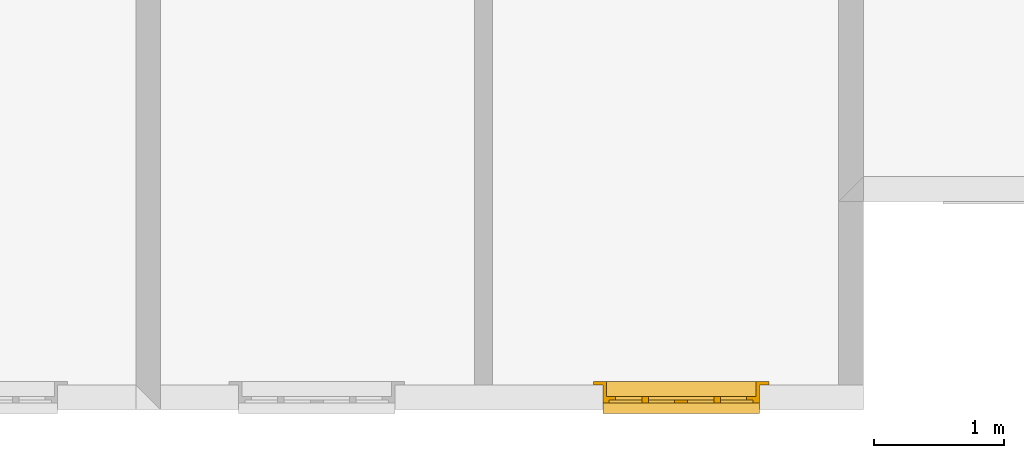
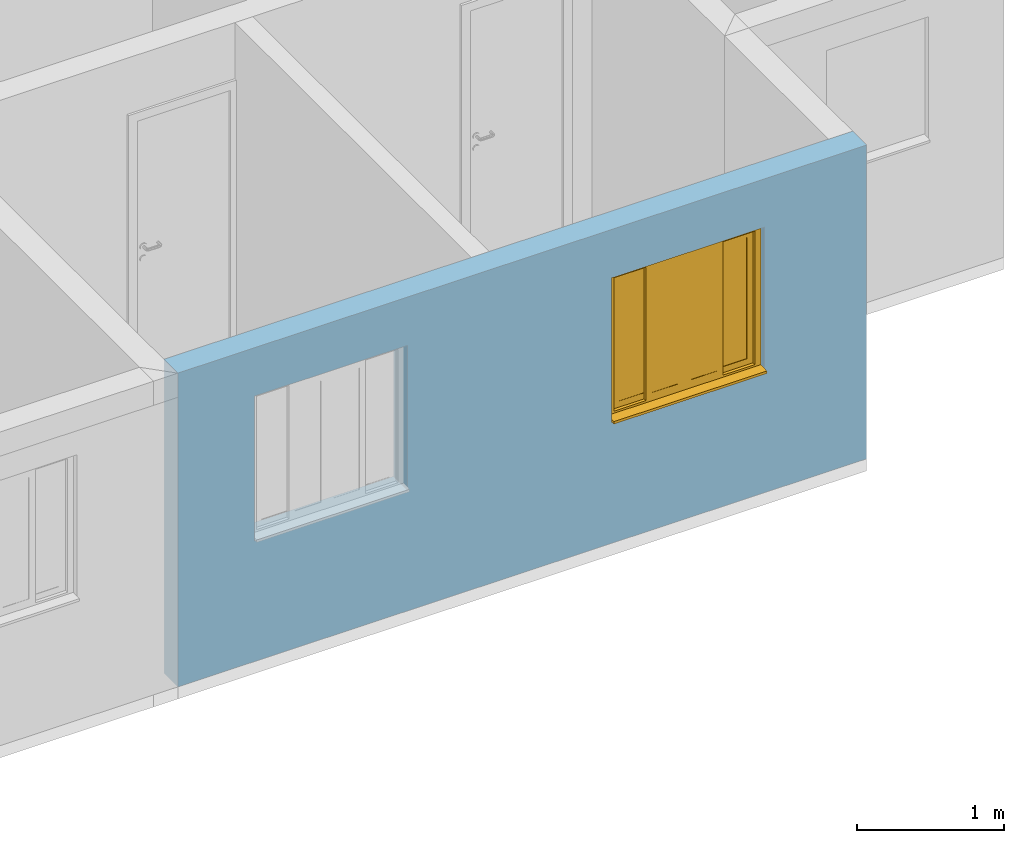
# One storey, part 16 of 47: 1 window, 2 openings, plus 1 element that does not belong to this part.
"""IFC2X3 building model written with IfcOpenShell, lengths in millimetres."""

from ifc_helpers import new_model, entity, si_unit, converted_unit, derived_unit, money_unit, direction, frame, origin_with_axes, origin_2d_with_axis, place, context, subcontext, project, spatial, polyline, rectangle, outline, extrude, open_shell, faceted_brep, surface_model, source, transform, mapped, material, layer, layer_set, layer_usage, type_object, element, fill, save


model = new_model("IFC2X3")

# Units and contexts
model_context = context("Model", 3, precision=0.01, world=origin_with_axes(), true_north=direction((0.0, 1.0)))
body_context = subcontext(model_context, "Body", "Model", "MODEL_VIEW")
ifc_project = project(units=[si_unit("LENGTHUNIT", "METRE", prefix="MILLI"), si_unit("AREAUNIT", "SQUARE_METRE"), si_unit("VOLUMEUNIT", "CUBIC_METRE"), converted_unit("PLANEANGLEUNIT", "DEGREE", entity("IfcPlaneAngleMeasure", 0.0174532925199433), si_unit("PLANEANGLEUNIT", "RADIAN"), dimensions=[0, 0, 0, 0, 0, 0, 0]), money_unit("USD"), converted_unit("TIMEUNIT", "Year", entity("IfcTimeMeasure", 31557600.0), si_unit("TIMEUNIT", "SECOND"), dimensions=[0, 0, 1, 0, 0, 0, 0]), si_unit("MASSUNIT", "GRAM", prefix="KILO"), si_unit("THERMODYNAMICTEMPERATUREUNIT", "DEGREE_CELSIUS"), si_unit("LUMINOUSINTENSITYUNIT", "LUMEN"), si_unit("ENERGYUNIT", "JOULE", prefix="MEGA"), derived_unit("THERMALCONDUCTANCEUNIT", [(si_unit("POWERUNIT", "WATT"), 1), (si_unit("LENGTHUNIT", "METRE"), -1), (si_unit("THERMODYNAMICTEMPERATUREUNIT", "KELVIN"), -1)]), derived_unit("SPECIFICHEATCAPACITYUNIT", [(si_unit("ENERGYUNIT", "JOULE"), 1), (si_unit("MASSUNIT", "GRAM", prefix="KILO"), -1), (si_unit("THERMODYNAMICTEMPERATUREUNIT", "KELVIN"), -1)]), derived_unit("MASSDENSITYUNIT", [(si_unit("MASSUNIT", "GRAM", prefix="KILO"), 1), (si_unit("VOLUMEUNIT", "CUBIC_METRE"), -1)])], contexts=[model_context])

# Site, building, storey
site_placement = place(None, origin_with_axes())
site = spatial("IfcSite", under=ifc_project, at=site_placement, Name="Local", CompositionType="ELEMENT")
building_placement = place(site_placement, origin_with_axes())
building = spatial("IfcBuilding", under=site, at=building_placement, Name="Construção", CompositionType="ELEMENT")
storey_placement = place(building_placement, origin_with_axes())
storey = spatial("IfcBuildingStorey", under=building, at=storey_placement, Name="Pavimento Tipo", CompositionType="ELEMENT", Elevation=0.0)

# Wall, openings, window
ifc_material = material(Name="Concreto - Estrutural")
ifc_layer = layer(ifc_material, 190.0, ventilated="UNKNOWN")
ifc_layer_set = layer_set([ifc_layer], Name="Concreto - Estrutural 190")
ifc_layer_usage = layer_usage(ifc_layer_set, "AXIS2", "POSITIVE", -190.0)
wall_type = type_object("IfcWallType", Name="Concreto - Estrutural 190", PredefinedType="NOTDEFINED")
wall_placement = place(storey_placement, frame((6442.566997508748, -1603.018582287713, 0.0), z_axis=(0.0, 0.0, 1.0), x_axis=(-1.0, 0.0, 0.0)))
wall = element("IfcWallStandardCase", 1, at=wall_placement, inside=storey, type_object=wall_type, material=ifc_layer_usage, Name="Apartamento 4 - Parede-004", context=body_context, shape_type="SweptSolid", body=[
    extrude(outline(polyline([(0.0, -189.9999999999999), (5399.999999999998, -189.9999999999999), (5399.999999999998, 0.0), (0.0, 0.0), (0.0, -189.9999999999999)])), origin_with_axes(), (0.0, 0.0, 1.0), 2600.0),
])
opening_1_placement = place(wall_placement, frame((4199.999999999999, 0.0, 1000.0), z_axis=(0.0, 0.0, 1.0), x_axis=(1.0, 0.0, 0.0)))
element("IfcOpeningElement", 2, at=opening_1_placement, cuts=wall, Name="Apartamento 4 - J06", context=body_context, shape_type="SweptSolid", body=[
    extrude(rectangle(XDim=1200.0, YDim=1200.0, at=origin_2d_with_axis()), frame((0.0, -50.00000000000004, 600.0000000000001), z_axis=(0.0, -1.0, 0.0), x_axis=(-1.0, 0.0, 0.0)), (0.0, 0.0, 1.0), 330.0),
    extrude(rectangle(XDim=1200.0, YDim=1200.0, at=origin_2d_with_axis()), frame((0.0, -50.00000000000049, 600.0000000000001), z_axis=(0.0, 1.0, 0.0), x_axis=(-1.0, 0.0, 0.0)), (0.0, 0.0, 1.0), 240.0),
    extrude(rectangle(XDim=1349.999999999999, YDim=1350.0, at=origin_2d_with_axis()), frame((0.0, -190.0000000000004, 600.0000000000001), z_axis=(0.0, -1.0, 0.0), x_axis=(-1.0, 0.0, 0.0)), (0.0, 0.0, 1.0), 240.0),
])
opening_2_placement = place(wall_placement, frame((1400.0, 0.0, 1000.0), z_axis=(0.0, 0.0, 1.0), x_axis=(1.0, 0.0, 0.0)))
opening_2 = element("IfcOpeningElement", 3, at=opening_2_placement, cuts=wall, Name="Apartamento 4 - J05", context=body_context, shape_type="SweptSolid", body=[
    extrude(rectangle(XDim=1199.999999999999, YDim=1200.0, at=origin_2d_with_axis()), frame((0.0, -50.00000000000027, 600.0000000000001), z_axis=(0.0, 1.0, 0.0), x_axis=(1.0, 0.0, 0.0)), (0.0, 0.0, -1.0), 330.0),
    extrude(rectangle(XDim=1199.999999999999, YDim=1200.0, at=origin_2d_with_axis()), frame((0.0, -50.00000000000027, 600.0000000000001), z_axis=(0.0, -1.0, 0.0), x_axis=(1.0, 0.0, 0.0)), (0.0, 0.0, -1.0), 240.0),
    extrude(rectangle(XDim=1350.0, YDim=1350.0, at=origin_2d_with_axis()), frame((0.0, -190.0000000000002, 600.0000000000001), z_axis=(0.0, 1.0, 0.0), x_axis=(1.0, 0.0, 0.0)), (0.0, 0.0, -1.0), 240.0),
])
window_style = type_object("IfcWindowStyle", Name="Janela de Correr 4-Folhas 27", ConstructionType="NOTDEFINED", OperationType="USERDEFINED", ParameterTakesPrecedence=False, Sizeable=False)
shared_shape = source(origin_with_axes(), body_context, "Body", "SurfaceModel", [
    faceted_brep([(-600.0, 0.0, 5.0), (-600.0, 0.0, 30.0), (-600.0, 50.0, 27.37961103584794), (-600.0, 50.0, 5.000000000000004), (600.0, 0.0, 5.0), (600.0, 0.0, 30.0), (600.0, 50.0, 27.37961103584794), (600.0, 80.0, 25.8073776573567), (-600.0, 80.0, 25.8073776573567), (-600.0, 80.0, 5.000000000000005), (600.0, 80.0, 5.000000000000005), (600.0, 50.0, 5.000000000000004)], [[[0, 1, 2, 3]], [[4, 5, 1, 0]], [[1, 5, 6, 7, 8, 2]], [[3, 2, 8, 9]], [[0, 3, 9, 10, 11, 4]], [[11, 6, 5, 4]], [[10, 7, 6, 11]], [[9, 8, 7, 10]]]),
    faceted_brep([(-600.0, 0.0, 0.0), (-600.0, 0.0, 5.0), (-600.0, 50.0, 5.0), (-600.0, 50.0, 0.0), (600.0, 0.0, 0.0), (600.0, 0.0, 5.0), (600.0, 50.0, 5.0), (600.0, 50.0, 0.0)], [[[0, 1, 2, 3]], [[4, 5, 1, 0]], [[1, 5, 6, 2]], [[3, 2, 6, 7]], [[0, 3, 7, 4]], [[7, 6, 5, 4]]]),
    faceted_brep([(-600.0, -50.0, 0.0), (600.0, -50.0, 0.0), (600.0, -140.0, 0.0), (-600.0, -140.0, 0.0), (-600.0, -50.00000000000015, 1200.0), (600.0, -50.00000000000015, 1200.0), (-575.0, -50.0, 24.99999999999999), (575.0, -50.0, 24.99999999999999), (575.0, -50.00000000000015, 1175.0), (-575.0, -50.00000000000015, 1175.0), (600.0, -140.0000000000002, 1200.0), (-600.0, -140.0000000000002, 1200.0), (-575.0, -140.0, 24.99999999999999), (-575.0, -140.0000000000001, 1175.0), (575.0, -140.0000000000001, 1175.0), (575.0, -140.0, 24.99999999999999)], [[[0, 1, 2, 3]], [[0, 4, 5, 1], [6, 7, 8, 9]], [[1, 5, 10, 2]], [[3, 2, 10, 11], [12, 13, 14, 15]], [[4, 0, 3, 11]], [[5, 4, 11, 10]], [[7, 6, 12, 15]], [[8, 7, 15, 14]], [[9, 8, 14, 13]], [[6, 9, 13, 12]]]),
    faceted_brep([(-674.9999999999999, -165.0, -75.00000000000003), (-674.9999999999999, -140.0, -75.00000000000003), (-575.0, -140.0, 24.99999999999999), (-575.0, -165.0, 24.99999999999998), (-674.9999999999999, -165.0000000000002, 1275.0), (-674.9999999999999, -140.0000000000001, 1275.0), (-575.0, -140.0000000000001, 1175.0), (-575.0, -165.0000000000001, 1175.0)], [[[0, 1, 2, 3]], [[4, 5, 1, 0]], [[1, 5, 6, 2]], [[3, 2, 6, 7]], [[0, 3, 7, 4]], [[7, 6, 5, 4]]]),
    faceted_brep([(674.9999999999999, -165.0000000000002, 1275.0), (674.9999999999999, -140.0000000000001, 1275.0), (575.0, -140.0000000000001, 1175.0), (575.0, -165.0000000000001, 1175.0), (674.9999999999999, -165.0, -75.00000000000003), (674.9999999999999, -140.0, -75.00000000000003), (575.0, -140.0, 24.99999999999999), (575.0, -165.0, 24.99999999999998)], [[[0, 1, 2, 3]], [[4, 5, 1, 0]], [[1, 5, 6, 2]], [[3, 2, 6, 7]], [[0, 3, 7, 4]], [[7, 6, 5, 4]]]),
    faceted_brep([(674.9999999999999, -165.0, -75.00000000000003), (674.9999999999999, -140.0, -75.00000000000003), (575.0, -140.0, 24.99999999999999), (575.0, -165.0, 24.99999999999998), (-674.9999999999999, -165.0, -75.00000000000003), (-674.9999999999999, -140.0, -75.00000000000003), (-575.0, -140.0, 24.99999999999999), (-575.0, -165.0, 24.99999999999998)], [[[0, 1, 2, 3]], [[4, 5, 1, 0]], [[1, 5, 6, 2]], [[3, 2, 6, 7]], [[0, 3, 7, 4]], [[7, 6, 5, 4]]]),
    faceted_brep([(-674.9999999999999, -165.0000000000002, 1275.0), (-674.9999999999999, -140.0000000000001, 1275.0), (-575.0, -140.0000000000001, 1175.0), (-575.0, -165.0000000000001, 1175.0), (674.9999999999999, -165.0000000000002, 1275.0), (674.9999999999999, -140.0000000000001, 1275.0), (575.0, -140.0000000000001, 1175.0), (575.0, -165.0000000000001, 1175.0)], [[[0, 1, 2, 3]], [[4, 5, 1, 0]], [[1, 5, 6, 2]], [[3, 2, 6, 7]], [[0, 3, 7, 4]], [[7, 6, 5, 4]]]),
    faceted_brep([(-552.9999999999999, -50.00000000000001, 47.0), (-552.9999999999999, 0.0, 47.00000000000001), (-552.9999999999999, 0.0, 1153.0), (-552.9999999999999, -50.00000000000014, 1153.0), (-600.0, -50.00000000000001, 47.0), (-600.0, 0.0, 47.00000000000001), (-600.0, 0.0, 1153.0), (-600.0, -50.00000000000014, 1153.0)], [[[0, 1, 2, 3]], [[4, 5, 1, 0]], [[1, 5, 6, 2]], [[3, 2, 6, 7]], [[0, 3, 7, 4]], [[7, 6, 5, 4]]]),
    faceted_brep([(600.0, -50.00000000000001, 47.0), (600.0, 0.0, 47.00000000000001), (600.0, 0.0, 1153.0), (600.0, -50.00000000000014, 1153.0), (552.9999999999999, -50.00000000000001, 47.0), (552.9999999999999, 0.0, 47.00000000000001), (552.9999999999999, 0.0, 1153.0), (552.9999999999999, -50.00000000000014, 1153.0)], [[[0, 1, 2, 3]], [[4, 5, 1, 0]], [[1, 5, 6, 2]], [[3, 2, 6, 7]], [[0, 3, 7, 4]], [[7, 6, 5, 4]]]),
    faceted_brep([(600.0, -50.00000000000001, 47.0), (600.0, 0.0, 47.00000000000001), (552.9999999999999, 0.0, 47.00000000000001), (552.9999999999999, -50.00000000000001, 47.0), (600.0, -50.0, 0.0), (600.0, 0.0, 0.0), (-600.0, 0.0, 0.0), (-600.0, 0.0, 47.00000000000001), (-552.9999999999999, 0.0, 47.00000000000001), (-552.9999999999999, -50.00000000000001, 47.0), (-600.0, -50.00000000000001, 47.0), (-600.0, -50.0, 0.0)], [[[0, 1, 2, 3]], [[4, 5, 1, 0]], [[1, 5, 6, 7, 8, 2]], [[3, 2, 8, 9]], [[0, 3, 9, 10, 11, 4]], [[11, 6, 5, 4]], [[10, 7, 6, 11]], [[9, 8, 7, 10]]]),
    faceted_brep([(600.0, -50.00000000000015, 1200.0), (600.0, 0.0, 1200.0), (-600.0, 0.0, 1200.0), (-600.0, -50.00000000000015, 1200.0), (600.0, -50.00000000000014, 1153.0), (600.0, 0.0, 1153.0), (552.9999999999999, 0.0, 1153.0), (276.5, 0.0, 1153.0), (0.0, 0.0, 1153.0), (-276.4999999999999, 0.0, 1153.0), (-552.9999999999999, 0.0, 1153.0), (-600.0, 0.0, 1153.0), (-600.0, -50.00000000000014, 1153.0), (-552.9999999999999, -50.00000000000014, 1153.0), (-276.4999999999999, -50.00000000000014, 1153.0), (0.0, -50.00000000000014, 1153.0), (276.5, -50.00000000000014, 1153.0), (552.9999999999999, -50.00000000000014, 1153.0)], [[[0, 1, 2, 3]], [[4, 5, 1, 0]], [[1, 5, 6, 7, 8, 9, 10, 11, 2]], [[3, 2, 11, 12]], [[0, 3, 12, 13, 14, 15, 16, 17, 4]], [[17, 6, 5, 4]], [[16, 7, 6, 17]], [[15, 8, 7, 16]], [[14, 9, 8, 15]], [[13, 10, 9, 14]], [[12, 11, 10, 13]]]),
    faceted_brep([(-502.9999999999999, -50.00000000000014, 1103.0), (-502.9999999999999, -25.00000000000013, 1103.0), (-552.9999999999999, -25.00000000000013, 1103.0), (-552.9999999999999, -50.00000000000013, 1103.0), (-502.9999999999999, -50.00000000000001, 97.0), (-502.9999999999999, -25.00000000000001, 97.0), (-552.9999999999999, -25.0, 97.0), (-552.9999999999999, -50.00000000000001, 97.0)], [[[0, 1, 2, 3]], [[4, 5, 1, 0]], [[1, 5, 6, 2]], [[3, 2, 6, 7]], [[0, 3, 7, 4]], [[7, 6, 5, 4]]]),
    faceted_brep([(-301.4999999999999, -50.00000000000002, 97.0), (-301.4999999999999, -25.00000000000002, 97.0), (-251.4999999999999, -25.00000000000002, 97.0), (-251.4999999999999, -50.00000000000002, 97.0), (-301.4999999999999, -50.00000000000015, 1103.0), (-301.4999999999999, -25.00000000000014, 1103.0), (-251.4999999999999, -25.00000000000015, 1103.0), (-251.4999999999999, -50.00000000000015, 1103.0)], [[[0, 1, 2, 3]], [[4, 5, 1, 0]], [[1, 5, 6, 2]], [[3, 2, 6, 7]], [[0, 3, 7, 4]], [[7, 6, 5, 4]]]),
    faceted_brep([(-251.4999999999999, -50.00000000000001, 47.0), (-251.4999999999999, -25.00000000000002, 47.0), (-251.4999999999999, -25.00000000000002, 97.0), (-251.4999999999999, -50.00000000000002, 97.0), (-552.9999999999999, -50.0, 47.0), (-552.9999999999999, -25.0, 47.0), (-552.9999999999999, -25.0, 97.0), (-502.9999999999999, -25.00000000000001, 97.0), (-301.4999999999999, -25.00000000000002, 97.0), (-301.4999999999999, -50.00000000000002, 97.0), (-502.9999999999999, -50.00000000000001, 97.0), (-552.9999999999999, -50.00000000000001, 97.0)], [[[0, 1, 2, 3]], [[4, 5, 1, 0]], [[1, 5, 6, 7, 8, 2]], [[3, 2, 8, 9]], [[0, 3, 9, 10, 11, 4]], [[11, 6, 5, 4]], [[10, 7, 6, 11]], [[9, 8, 7, 10]]]),
    faceted_brep([(-552.9999999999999, -50.00000000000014, 1153.0), (-552.9999999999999, -25.00000000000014, 1153.0), (-552.9999999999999, -25.00000000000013, 1103.0), (-552.9999999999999, -50.00000000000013, 1103.0), (-251.4999999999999, -50.00000000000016, 1153.0), (-251.4999999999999, -25.00000000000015, 1153.0), (-251.4999999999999, -25.00000000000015, 1103.0), (-301.4999999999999, -25.00000000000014, 1103.0), (-502.9999999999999, -25.00000000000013, 1103.0), (-502.9999999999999, -50.00000000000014, 1103.0), (-301.4999999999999, -50.00000000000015, 1103.0), (-251.4999999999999, -50.00000000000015, 1103.0)], [[[0, 1, 2, 3]], [[4, 5, 1, 0]], [[1, 5, 6, 7, 8, 2]], [[3, 2, 8, 9]], [[0, 3, 9, 10, 11, 4]], [[11, 6, 5, 4]], [[10, 7, 6, 11]], [[9, 8, 7, 10]]]),
    surface_model("IfcShellBasedSurfaceModel", [(-502.9999999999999, -47.50000000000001, 97.0), (-301.4999999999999, -47.50000000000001, 97.0), (-301.4999999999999, -47.50000000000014, 1103.0), (-502.9999999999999, -47.50000000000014, 1103.0)], [open_shell([[[0, 1, 2, 3]]])]),
    surface_model("IfcShellBasedSurfaceModel", [(-502.9999999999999, -27.50000000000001, 97.0), (-502.9999999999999, -27.50000000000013, 1103.0), (-301.4999999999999, -27.50000000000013, 1103.0), (-301.4999999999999, -27.50000000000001, 97.0)], [open_shell([[[0, 1, 2, 3]]])]),
    faceted_brep([(-251.4999999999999, -25.00000000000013, 1103.0), (-251.4999999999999, 0.0, 1103.0), (-301.4999999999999, 0.0, 1103.0), (-301.4999999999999, -25.00000000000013, 1103.0), (-251.4999999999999, -25.00000000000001, 97.0), (-251.4999999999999, 0.0, 97.0), (-301.4999999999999, 0.0, 97.0), (-301.4999999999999, -25.0, 97.0)], [[[0, 1, 2, 3]], [[4, 5, 1, 0]], [[1, 5, 6, 2]], [[3, 2, 6, 7]], [[0, 3, 7, 4]], [[7, 6, 5, 4]]]),
    faceted_brep([(-49.99999999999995, -25.00000000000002, 97.0), (-49.99999999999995, 0.0, 97.0), (0.0, 0.0, 97.0), (0.0, -25.00000000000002, 97.0), (-49.99999999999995, -25.00000000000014, 1103.0), (-49.99999999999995, 0.0, 1103.0), (0.0, 0.0, 1103.0), (0.0, -25.00000000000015, 1103.0)], [[[0, 1, 2, 3]], [[4, 5, 1, 0]], [[1, 5, 6, 2]], [[3, 2, 6, 7]], [[0, 3, 7, 4]], [[7, 6, 5, 4]]]),
    faceted_brep([(0.0, -25.00000000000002, 47.0), (0.0, 0.0, 47.0), (0.0, 0.0, 97.0), (0.0, -25.00000000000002, 97.0), (-301.4999999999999, -25.0, 47.0), (-301.4999999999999, 0.0, 47.0), (-301.4999999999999, 0.0, 97.0), (-251.4999999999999, 0.0, 97.0), (-49.99999999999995, 0.0, 97.0), (-49.99999999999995, -25.00000000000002, 97.0), (-251.4999999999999, -25.00000000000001, 97.0), (-301.4999999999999, -25.0, 97.0)], [[[0, 1, 2, 3]], [[4, 5, 1, 0]], [[1, 5, 6, 7, 8, 2]], [[3, 2, 8, 9]], [[0, 3, 9, 10, 11, 4]], [[11, 6, 5, 4]], [[10, 7, 6, 11]], [[9, 8, 7, 10]]]),
    faceted_brep([(-301.4999999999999, -25.00000000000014, 1153.0), (-301.4999999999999, 0.0, 1153.0), (-301.4999999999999, 0.0, 1103.0), (-301.4999999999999, -25.00000000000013, 1103.0), (0.0, -25.00000000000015, 1153.0), (0.0, 0.0, 1153.0), (0.0, 0.0, 1103.0), (-49.99999999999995, 0.0, 1103.0), (-251.4999999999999, 0.0, 1103.0), (-251.4999999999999, -25.00000000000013, 1103.0), (-49.99999999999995, -25.00000000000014, 1103.0), (0.0, -25.00000000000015, 1103.0)], [[[0, 1, 2, 3]], [[4, 5, 1, 0]], [[1, 5, 6, 7, 8, 2]], [[3, 2, 8, 9]], [[0, 3, 9, 10, 11, 4]], [[11, 6, 5, 4]], [[10, 7, 6, 11]], [[9, 8, 7, 10]]]),
    surface_model("IfcShellBasedSurfaceModel", [(-251.4999999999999, -22.50000000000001, 97.0), (-49.99999999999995, -22.50000000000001, 97.0), (-49.99999999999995, -22.50000000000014, 1103.0), (-251.4999999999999, -22.50000000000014, 1103.0)], [open_shell([[[0, 1, 2, 3]]])]),
    surface_model("IfcShellBasedSurfaceModel", [(-251.4999999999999, -2.500000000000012, 97.0), (-251.4999999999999, -2.500000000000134, 1103.0), (-49.99999999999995, -2.500000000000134, 1103.0), (-49.99999999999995, -2.500000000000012, 97.0)], [open_shell([[[0, 1, 2, 3]]])]),
    faceted_brep([(50.00000000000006, -25.00000000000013, 1103.0), (50.00000000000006, 0.0, 1103.0), (0.0, 0.0, 1103.0), (0.0, -25.00000000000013, 1103.0), (50.00000000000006, -25.00000000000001, 97.0), (50.00000000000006, 0.0, 97.0), (0.0, 0.0, 97.0), (0.0, -25.0, 97.0)], [[[0, 1, 2, 3]], [[4, 5, 1, 0]], [[1, 5, 6, 2]], [[3, 2, 6, 7]], [[0, 3, 7, 4]], [[7, 6, 5, 4]]]),
    faceted_brep([(251.5000000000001, -25.00000000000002, 97.0), (251.5000000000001, 0.0, 97.0), (301.5000000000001, 0.0, 97.0), (301.5000000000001, -25.00000000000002, 97.0), (251.5000000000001, -25.00000000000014, 1103.0), (251.5000000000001, 0.0, 1103.0), (301.5000000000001, 0.0, 1103.0), (301.5000000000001, -25.00000000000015, 1103.0)], [[[0, 1, 2, 3]], [[4, 5, 1, 0]], [[1, 5, 6, 2]], [[3, 2, 6, 7]], [[0, 3, 7, 4]], [[7, 6, 5, 4]]]),
    faceted_brep([(301.5000000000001, -25.00000000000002, 47.0), (301.5000000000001, 0.0, 47.0), (301.5000000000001, 0.0, 97.0), (301.5000000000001, -25.00000000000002, 97.0), (0.0, -25.0, 47.0), (0.0, 0.0, 47.0), (0.0, 0.0, 97.0), (50.00000000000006, 0.0, 97.0), (251.5000000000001, 0.0, 97.0), (251.5000000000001, -25.00000000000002, 97.0), (50.00000000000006, -25.00000000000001, 97.0), (0.0, -25.0, 97.0)], [[[0, 1, 2, 3]], [[4, 5, 1, 0]], [[1, 5, 6, 7, 8, 2]], [[3, 2, 8, 9]], [[0, 3, 9, 10, 11, 4]], [[11, 6, 5, 4]], [[10, 7, 6, 11]], [[9, 8, 7, 10]]]),
    faceted_brep([(0.0, -25.00000000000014, 1153.0), (0.0, 0.0, 1153.0), (0.0, 0.0, 1103.0), (0.0, -25.00000000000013, 1103.0), (301.5000000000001, -25.00000000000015, 1153.0), (301.5000000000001, 0.0, 1153.0), (301.5000000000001, 0.0, 1103.0), (251.5000000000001, 0.0, 1103.0), (50.00000000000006, 0.0, 1103.0), (50.00000000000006, -25.00000000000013, 1103.0), (251.5000000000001, -25.00000000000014, 1103.0), (301.5000000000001, -25.00000000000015, 1103.0)], [[[0, 1, 2, 3]], [[4, 5, 1, 0]], [[1, 5, 6, 7, 8, 2]], [[3, 2, 8, 9]], [[0, 3, 9, 10, 11, 4]], [[11, 6, 5, 4]], [[10, 7, 6, 11]], [[9, 8, 7, 10]]]),
    surface_model("IfcShellBasedSurfaceModel", [(50.00000000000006, -22.50000000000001, 97.0), (251.5000000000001, -22.50000000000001, 97.0), (251.5000000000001, -22.50000000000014, 1103.0), (50.00000000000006, -22.50000000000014, 1103.0)], [open_shell([[[0, 1, 2, 3]]])]),
    surface_model("IfcShellBasedSurfaceModel", [(50.00000000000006, -2.500000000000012, 97.0), (50.00000000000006, -2.500000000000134, 1103.0), (251.5000000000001, -2.500000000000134, 1103.0), (251.5000000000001, -2.500000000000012, 97.0)], [open_shell([[[0, 1, 2, 3]]])]),
    faceted_brep([(301.5000000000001, -50.00000000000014, 1103.0), (301.5000000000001, -25.00000000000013, 1103.0), (251.5000000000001, -25.00000000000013, 1103.0), (251.5000000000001, -50.00000000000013, 1103.0), (301.5000000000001, -50.00000000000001, 97.0), (301.5000000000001, -25.00000000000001, 97.0), (251.5000000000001, -25.0, 97.0), (251.5000000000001, -50.00000000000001, 97.0)], [[[0, 1, 2, 3]], [[4, 5, 1, 0]], [[1, 5, 6, 2]], [[3, 2, 6, 7]], [[0, 3, 7, 4]], [[7, 6, 5, 4]]]),
    faceted_brep([(503.0, -50.00000000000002, 97.0), (503.0, -25.00000000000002, 97.0), (553.0, -25.00000000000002, 97.0), (553.0, -50.00000000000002, 97.0), (503.0, -50.00000000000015, 1103.0), (503.0, -25.00000000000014, 1103.0), (553.0, -25.00000000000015, 1103.0), (553.0, -50.00000000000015, 1103.0)], [[[0, 1, 2, 3]], [[4, 5, 1, 0]], [[1, 5, 6, 2]], [[3, 2, 6, 7]], [[0, 3, 7, 4]], [[7, 6, 5, 4]]]),
    faceted_brep([(553.0, -50.00000000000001, 47.0), (553.0, -25.00000000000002, 47.0), (553.0, -25.00000000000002, 97.0), (553.0, -50.00000000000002, 97.0), (251.5000000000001, -50.0, 47.0), (251.5000000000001, -25.0, 47.0), (251.5000000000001, -25.0, 97.0), (301.5000000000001, -25.00000000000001, 97.0), (503.0, -25.00000000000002, 97.0), (503.0, -50.00000000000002, 97.0), (301.5000000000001, -50.00000000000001, 97.0), (251.5000000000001, -50.00000000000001, 97.0)], [[[0, 1, 2, 3]], [[4, 5, 1, 0]], [[1, 5, 6, 7, 8, 2]], [[3, 2, 8, 9]], [[0, 3, 9, 10, 11, 4]], [[11, 6, 5, 4]], [[10, 7, 6, 11]], [[9, 8, 7, 10]]]),
    faceted_brep([(251.5000000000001, -50.00000000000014, 1153.0), (251.5000000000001, -25.00000000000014, 1153.0), (251.5000000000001, -25.00000000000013, 1103.0), (251.5000000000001, -50.00000000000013, 1103.0), (553.0, -50.00000000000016, 1153.0), (553.0, -25.00000000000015, 1153.0), (553.0, -25.00000000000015, 1103.0), (503.0, -25.00000000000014, 1103.0), (301.5000000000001, -25.00000000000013, 1103.0), (301.5000000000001, -50.00000000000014, 1103.0), (503.0, -50.00000000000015, 1103.0), (553.0, -50.00000000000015, 1103.0)], [[[0, 1, 2, 3]], [[4, 5, 1, 0]], [[1, 5, 6, 7, 8, 2]], [[3, 2, 8, 9]], [[0, 3, 9, 10, 11, 4]], [[11, 6, 5, 4]], [[10, 7, 6, 11]], [[9, 8, 7, 10]]]),
    surface_model("IfcShellBasedSurfaceModel", [(301.5, -47.50000000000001, 97.0), (503.0, -47.50000000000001, 97.0), (503.0, -47.50000000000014, 1103.0), (301.5, -47.50000000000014, 1103.0)], [open_shell([[[0, 1, 2, 3]]])]),
    surface_model("IfcShellBasedSurfaceModel", [(301.5, -27.50000000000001, 97.0), (301.5, -27.50000000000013, 1103.0), (503.0, -27.50000000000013, 1103.0), (503.0, -27.50000000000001, 97.0)], [open_shell([[[0, 1, 2, 3]]])]),
])
window_placement = place(opening_2_placement, frame((-599.9999999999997, 0.0, 0.0), z_axis=(0.0, 0.0, 1.0), x_axis=(1.0, 0.0, 0.0)))
window = element("IfcWindow", 4, at=window_placement, inside=storey, type_object=window_style, Name="Apartamento 4 - J05", ObjectType="WINDOW", OverallHeight=1200.0, OverallWidth=1200.0, context=body_context, shape_type="MappedRepresentation", body=[
    mapped(shared_shape, transform((599.9999999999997, -50.00000000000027, 0.0))),
])
fill(opening_2, window)

save(model, "model.ifc")
